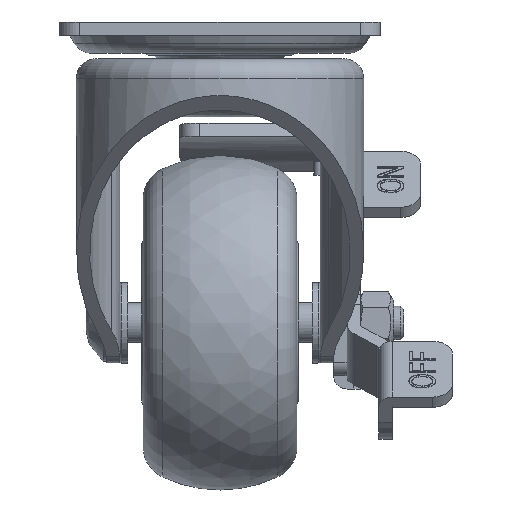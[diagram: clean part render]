
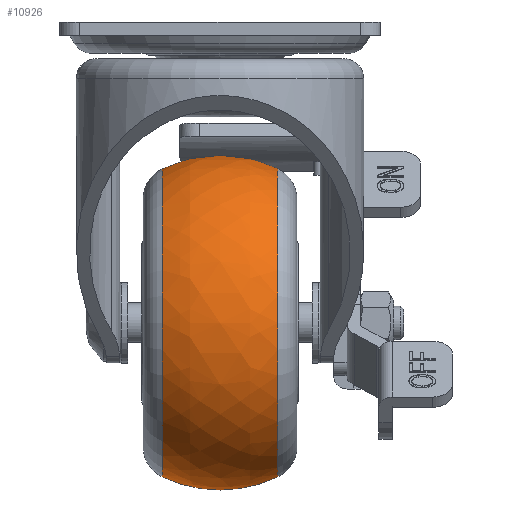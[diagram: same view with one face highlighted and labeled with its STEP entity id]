
A CAD part, left-side view. The second image highlights one B-rep face of the part: STEP entity #10926.
In plain terms, the highlighted free-form (B-spline) face has degree [2, 2] with [3, 9] control points.
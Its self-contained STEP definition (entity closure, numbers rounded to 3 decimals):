
#35=(
BOUNDED_SURFACE()
B_SPLINE_SURFACE(2,2,((#20307,#20308,#20309,#20310,#20311,#20312,#20313,
#20314,#20315),(#20316,#20317,#20318,#20319,#20320,#20321,#20322,#20323,
#20324),(#20325,#20326,#20327,#20328,#20329,#20330,#20331,#20332,#20333)),
 .UNSPECIFIED.,.F.,.T.,.F.)
B_SPLINE_SURFACE_WITH_KNOTS((3,3),(3,2,2,2,3),(-0.448,0.448),
(-3.142,-1.571,0.,1.571,3.142),
 .UNSPECIFIED.)
GEOMETRIC_REPRESENTATION_ITEM()
RATIONAL_B_SPLINE_SURFACE(((1.,0.707,1.,0.707,1.,
0.707,1.,0.707,1.),(0.901,0.637,
0.901,0.637,0.901,0.637,
0.901,0.637,0.901),(1.,0.707,
1.,0.707,1.,0.707,1.,0.707,1.)))
REPRESENTATION_ITEM('')
SURFACE()
);
#3386=FACE_OUTER_BOUND('',#4074,.T.);
#4074=EDGE_LOOP('',(#10124,#10125,#10126,#10127,#10128,#10129));
#4422=CIRCLE('',#11810,23.025);
#4426=CIRCLE('',#11814,23.025);
#4427=CIRCLE('',#11815,23.025);
#4428=CIRCLE('',#11816,23.025);
#4429=CIRCLE('',#11817,20.);
#5471=VERTEX_POINT('',#20298);
#5472=VERTEX_POINT('',#20299);
#5475=VERTEX_POINT('',#20334);
#5476=VERTEX_POINT('',#20335);
#7033=EDGE_CURVE('',#5471,#5472,#4422,.T.);
#7037=EDGE_CURVE('',#5472,#5471,#4426,.T.);
#7038=EDGE_CURVE('',#5475,#5476,#4427,.T.);
#7039=EDGE_CURVE('',#5476,#5475,#4428,.T.);
#7040=EDGE_CURVE('',#5476,#5472,#4429,.T.);
#10124=ORIENTED_EDGE('',*,*,#7038,.F.);
#10125=ORIENTED_EDGE('',*,*,#7039,.F.);
#10126=ORIENTED_EDGE('',*,*,#7040,.T.);
#10127=ORIENTED_EDGE('',*,*,#7033,.F.);
#10128=ORIENTED_EDGE('',*,*,#7037,.F.);
#10129=ORIENTED_EDGE('',*,*,#7040,.F.);
#10926=ADVANCED_FACE('',(#3386),#35,.F.);
#11810=AXIS2_PLACEMENT_3D('',#20300,#14280,#14281);
#11814=AXIS2_PLACEMENT_3D('',#20306,#14288,#14289);
#11815=AXIS2_PLACEMENT_3D('',#20336,#14290,#14291);
#11816=AXIS2_PLACEMENT_3D('',#20337,#14292,#14293);
#11817=AXIS2_PLACEMENT_3D('',#20338,#14294,#14295);
#14280=DIRECTION('center_axis',(1.,0.,0.));
#14281=DIRECTION('ref_axis',(0.,0.,
1.));
#14288=DIRECTION('center_axis',(1.,0.,0.));
#14289=DIRECTION('ref_axis',(0.,0.,
1.));
#14290=DIRECTION('center_axis',(-1.,0.,0.));
#14291=DIRECTION('ref_axis',(0.,0.,
1.));
#14292=DIRECTION('center_axis',(-1.,0.,0.));
#14293=DIRECTION('ref_axis',(0.,0.,
1.));
#14294=DIRECTION('center_axis',(0.,1.,0.));
#14295=DIRECTION('ref_axis',(0.,0.,
1.));
#20298=CARTESIAN_POINT('',(-0.438,11.853,-31.149));
#20299=CARTESIAN_POINT('',(-0.438,11.853,14.9));
#20300=CARTESIAN_POINT('Origin',(-0.438,11.853,-8.125));
#20306=CARTESIAN_POINT('Origin',(-0.438,11.853,-8.125));
#20307=CARTESIAN_POINT('Ctrl Pts',(-0.438,11.853,
14.9));
#20308=CARTESIAN_POINT('Ctrl Pts',(-0.438,34.878,
14.9));
#20309=CARTESIAN_POINT('Ctrl Pts',(-0.438,34.878,
-8.125));
#20310=CARTESIAN_POINT('Ctrl Pts',(-0.438,34.878,
-31.149));
#20311=CARTESIAN_POINT('Ctrl Pts',(-0.438,11.853,
-31.149));
#20312=CARTESIAN_POINT('Ctrl Pts',(-0.438,-11.172,
-31.149));
#20313=CARTESIAN_POINT('Ctrl Pts',(-0.438,-11.172,
-8.125));
#20314=CARTESIAN_POINT('Ctrl Pts',(-0.438,-11.172,
14.9));
#20315=CARTESIAN_POINT('Ctrl Pts',(-0.438,11.853,
14.9));
#20316=CARTESIAN_POINT('Ctrl Pts',(-9.105,11.853,19.067));
#20317=CARTESIAN_POINT('Ctrl Pts',(-9.105,39.045,19.067));
#20318=CARTESIAN_POINT('Ctrl Pts',(-9.105,39.045,-8.125));
#20319=CARTESIAN_POINT('Ctrl Pts',(-9.105,39.045,-35.317));
#20320=CARTESIAN_POINT('Ctrl Pts',(-9.105,11.853,-35.317));
#20321=CARTESIAN_POINT('Ctrl Pts',(-9.105,-15.339,-35.317));
#20322=CARTESIAN_POINT('Ctrl Pts',(-9.105,-15.339,-8.125));
#20323=CARTESIAN_POINT('Ctrl Pts',(-9.105,-15.339,19.067));
#20324=CARTESIAN_POINT('Ctrl Pts',(-9.105,11.853,19.067));
#20325=CARTESIAN_POINT('Ctrl Pts',(-17.771,11.853,14.9));
#20326=CARTESIAN_POINT('Ctrl Pts',(-17.771,34.878,14.9));
#20327=CARTESIAN_POINT('Ctrl Pts',(-17.771,34.878,-8.125));
#20328=CARTESIAN_POINT('Ctrl Pts',(-17.771,34.878,-31.149));
#20329=CARTESIAN_POINT('Ctrl Pts',(-17.771,11.853,-31.149));
#20330=CARTESIAN_POINT('Ctrl Pts',(-17.771,-11.172,
-31.149));
#20331=CARTESIAN_POINT('Ctrl Pts',(-17.771,-11.172,
-8.125));
#20332=CARTESIAN_POINT('Ctrl Pts',(-17.771,-11.172,
14.9));
#20333=CARTESIAN_POINT('Ctrl Pts',(-17.771,11.853,14.9));
#20334=CARTESIAN_POINT('',(-17.771,11.853,-31.149));
#20335=CARTESIAN_POINT('',(-17.771,11.853,14.9));
#20336=CARTESIAN_POINT('Origin',(-17.771,11.853,-8.125));
#20337=CARTESIAN_POINT('Origin',(-17.771,11.853,-8.125));
#20338=CARTESIAN_POINT('Origin',(-9.105,11.853,-3.125));
